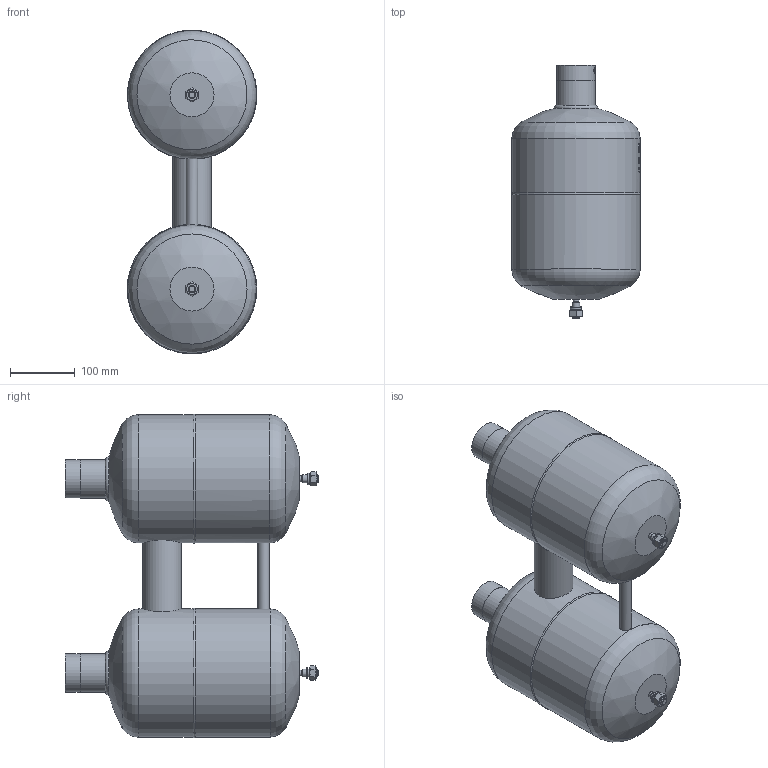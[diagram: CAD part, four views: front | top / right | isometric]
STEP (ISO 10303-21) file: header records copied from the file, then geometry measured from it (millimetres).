
FILE_DESCRIPTION(/* description */ (''),/* implementation_level */ '2;1');
FILE_NAME(/* name */ 'P:\FA\FA-54T\FA-54T.stp',/* time_stamp */ '2017-10-05T07:57:23+02:00',/* author */ ('neufeld'),/* organization */ (''),/* preprocessor_version */ 'ST-DEVELOPER v16.1',/* originating_system */ 'Autodesk Inventor 2016',/* authorisation */ '');
FILE_SCHEMA (('AUTOMOTIVE_DESIGN { 1 0 10303 214 3 1 1 }'));
Length unit declared in the file: millimetre
Products named in the file (2): FA-54T; FA-54T_1
Assembly tree (1 placements, depth 2):
  FA-54T_1
    FA-54T
Bounding box: 200.21 x 391.31 x 500.04 mm (x, y, z)
Volume: 16977280.3 mm3; surface area: 483147.9 mm2
Topology: 3 solids, 3 shells, 1282 faces, 3462 edges, 2305 vertices
Faces by surface type: plane 709, bspline 424, cylinder 127, cone 10, torus 8, sphere 4
Full cylindrical faces by diameter (mm): 9 x2, 12 x4, 18 x1, 54.3 x2, 59 x2, 59.5 x2, 60 x1, 198 x4
Entity records: 49241 total; most frequent: CARTESIAN_POINT 19260, ORIENTED_EDGE 6828, DIRECTION 5170, EDGE_CURVE 3414, VERTEX_POINT 2293, AXIS2_PLACEMENT_3D 1772, LINE 1626, VECTOR 1626
